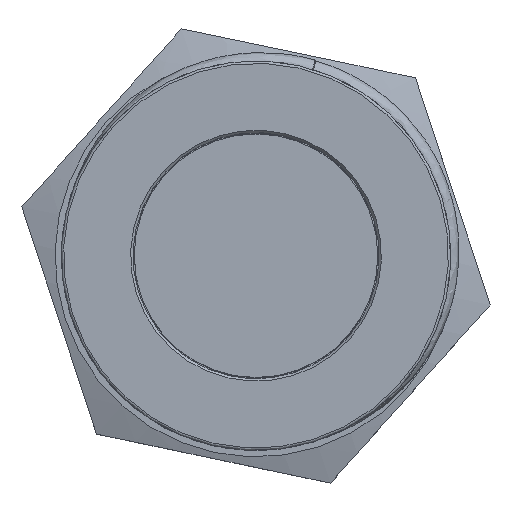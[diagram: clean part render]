
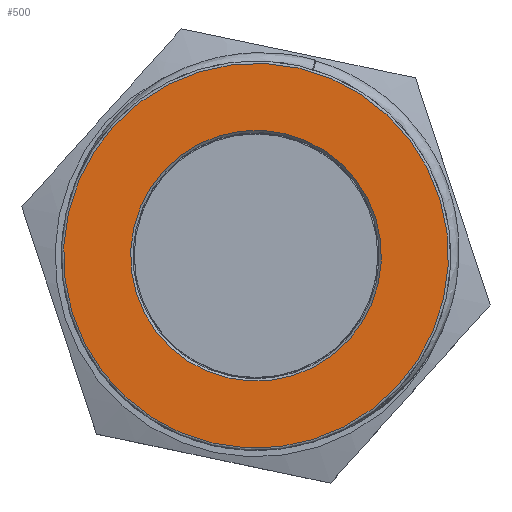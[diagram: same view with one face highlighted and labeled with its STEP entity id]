
A CAD part, top view. The second image highlights one B-rep face of the part: STEP entity #500.
In plain terms, the highlighted planar face has unit normal (0, 0, 1).
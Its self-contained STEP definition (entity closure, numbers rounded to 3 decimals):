
#500 = ADVANCED_FACE( '', ( #1101, #1102 ), #1103, .T. );
#1101 = FACE_OUTER_BOUND( '', #5180, .T. );
#1102 = FACE_BOUND( '', #5181, .T. );
#1103 = PLANE( '', #5182 );
#5180 = EDGE_LOOP( '', ( #7602 ) );
#5181 = EDGE_LOOP( '', ( #7603 ) );
#5182 = AXIS2_PLACEMENT_3D( '', #7604, #7605, #7606 );
#7602 = ORIENTED_EDGE( '', *, *, #9647, .T. );
#7603 = ORIENTED_EDGE( '', *, *, #9648, .T. );
#7604 = CARTESIAN_POINT( '', ( 0., 0., 15.95 ) );
#7605 = DIRECTION( '', ( 0., 0., 1. ) );
#7606 = DIRECTION( '', ( 1., 0., 0. ) );
#9647 = EDGE_CURVE( '', #10646, #10646, #10647, .T. );
#9648 = EDGE_CURVE( '', #10648, #10648, #10649, .F. );
#10646 = VERTEX_POINT( '', #18025 );
#10647 = CIRCLE( '', #18026, 7.9 );
#10648 = VERTEX_POINT( '', #18027 );
#10649 = CIRCLE( '', #18028, 5.15 );
#18025 = CARTESIAN_POINT( '', ( 7.9, 0., 15.95 ) );
#18026 = AXIS2_PLACEMENT_3D( '', #20496, #20497, #20498 );
#18027 = CARTESIAN_POINT( '', ( 5.15, 0., 15.95 ) );
#18028 = AXIS2_PLACEMENT_3D( '', #20499, #20500, #20501 );
#20496 = CARTESIAN_POINT( '', ( 0., 0., 15.95 ) );
#20497 = DIRECTION( '', ( 0., 0., 1. ) );
#20498 = DIRECTION( '', ( 1., 0., 0. ) );
#20499 = CARTESIAN_POINT( '', ( 0., 0., 15.95 ) );
#20500 = DIRECTION( '', ( 0., 0., 1. ) );
#20501 = DIRECTION( '', ( 1., 0., 0. ) );
